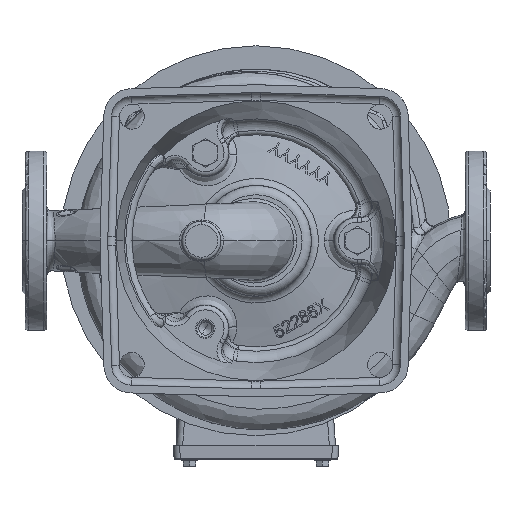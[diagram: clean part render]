
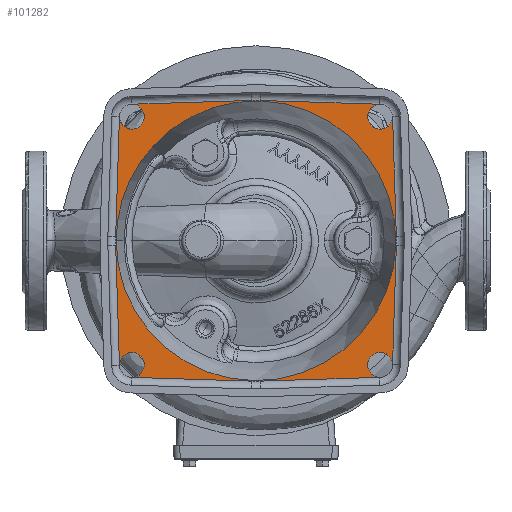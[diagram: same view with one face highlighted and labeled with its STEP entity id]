
A CAD part, front view. The second image highlights one B-rep face of the part: STEP entity #101282.
In plain terms, the highlighted planar face has unit normal (0, -1, 0).
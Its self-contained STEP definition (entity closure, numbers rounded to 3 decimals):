
#16184=CARTESIAN_POINT('',(0.,-34.,0.));
#16185=DIRECTION('',(0.,1.,0.));
#16186=DIRECTION('',(-0.737,0.,0.676));
#16187=AXIS2_PLACEMENT_3D('',#16184,#16185,#16186);
#17542=CARTESIAN_POINT('',(79.55,-34.,-79.55));
#17543=DIRECTION('',(0.,-1.,0.));
#17544=DIRECTION('',(0.998,0.,0.063));
#17545=AXIS2_PLACEMENT_3D('',#17542,#17543,#17544);
#17547=CARTESIAN_POINT('',(79.55,-34.,-79.55));
#17548=DIRECTION('',(0.,-1.,0.));
#17549=DIRECTION('',(0.,0.,1.));
#17550=AXIS2_PLACEMENT_3D('',#17547,#17548,#17549);
#17552=DIRECTION('',(-0.999,0.,-0.032));
#17553=VECTOR('',#17552,76.227);
#17554=CARTESIAN_POINT('',(79.047,-34.,-87.534));
#17555=LINE('',#17554,#17553);
#17556=CARTESIAN_POINT('',(0.,-34.,0.));
#17557=DIRECTION('',(0.,1.,0.));
#17558=DIRECTION('',(0.032,0.,-0.999));
#17559=AXIS2_PLACEMENT_3D('',#17556,#17557,#17558);
#17561=DIRECTION('',(-1.,0.,0.031));
#17562=VECTOR('',#17561,77.021);
#17563=CARTESIAN_POINT('',(-2.816,-34.,-89.956));
#17564=LINE('',#17563,#17562);
#17565=CARTESIAN_POINT('',(-79.55,-34.,-79.55));
#17566=DIRECTION('',(0.,-1.,0.));
#17567=DIRECTION('',(-0.031,0.,-1.));
#17568=AXIS2_PLACEMENT_3D('',#17565,#17566,#17567);
#17570=CARTESIAN_POINT('',(-79.55,-34.,-79.55));
#17571=DIRECTION('',(0.,-1.,0.));
#17572=DIRECTION('',(1.,0.,0.));
#17573=AXIS2_PLACEMENT_3D('',#17570,#17571,#17572);
#17575=DIRECTION('',(-0.031,0.,1.));
#17576=VECTOR('',#17575,76.771);
#17577=CARTESIAN_POINT('',(-87.55,-34.,
-79.55));
#17578=LINE('',#17577,#17576);
#17579=CARTESIAN_POINT('',(0.,-34.,0.));
#17580=DIRECTION('',(0.,1.,0.));
#17581=DIRECTION('',(-1.,0.,-0.031));
#17582=AXIS2_PLACEMENT_3D('',#17579,#17580,#17581);
#17584=DIRECTION('',(0.031,0.,1.));
#17585=VECTOR('',#17584,77.021);
#17586=CARTESIAN_POINT('',(-89.956,-34.,2.816));
#17587=LINE('',#17586,#17585);
#17588=CARTESIAN_POINT('',(-79.55,-34.,79.55));
#17589=DIRECTION('',(0.,-1.,0.));
#17590=DIRECTION('',(-1.,0.,0.031));
#17591=AXIS2_PLACEMENT_3D('',#17588,#17589,#17590);
#17593=CARTESIAN_POINT('',(-79.55,-34.,79.55));
#17594=DIRECTION('',(0.,-1.,0.));
#17595=DIRECTION('',(0.,0.,-1.));
#17596=AXIS2_PLACEMENT_3D('',#17593,#17594,#17595);
#17598=DIRECTION('',(1.,0.,0.031));
#17599=VECTOR('',#17598,76.771);
#17600=CARTESIAN_POINT('',(-79.55,-34.,
87.55));
#17601=LINE('',#17600,#17599);
#17602=CARTESIAN_POINT('',(0.,-34.,0.));
#17603=DIRECTION('',(0.,1.,0.));
#17604=DIRECTION('',(-0.031,0.,1.));
#17605=AXIS2_PLACEMENT_3D('',#17602,#17603,#17604);
#17607=DIRECTION('',(0.999,0.,-0.032));
#17608=VECTOR('',#17607,76.227);
#17609=CARTESIAN_POINT('',(2.858,-34.,89.955));
#17610=LINE('',#17609,#17608);
#17611=CARTESIAN_POINT('',(79.55,-34.,79.55));
#17612=DIRECTION('',(0.,-1.,0.));
#17613=DIRECTION('',(-0.063,0.,0.998));
#17614=AXIS2_PLACEMENT_3D('',#17611,#17612,#17613);
#17616=CARTESIAN_POINT('',(79.55,-34.,79.55));
#17617=DIRECTION('',(0.,-1.,0.));
#17618=DIRECTION('',(-1.,0.,0.));
#17619=AXIS2_PLACEMENT_3D('',#17616,#17617,#17618);
#17621=DIRECTION('',(0.031,0.,-1.));
#17622=VECTOR('',#17621,76.771);
#17623=CARTESIAN_POINT('',(87.55,-34.,
79.55));
#17624=LINE('',#17623,#17622);
#17625=CARTESIAN_POINT('',(0.,-34.,0.));
#17626=DIRECTION('',(0.,1.,0.));
#17627=DIRECTION('',(1.,0.,0.031));
#17628=AXIS2_PLACEMENT_3D('',#17625,#17626,#17627);
#17630=DIRECTION('',(-0.032,0.,-0.999));
#17631=VECTOR('',#17630,76.227);
#17632=CARTESIAN_POINT('',(89.955,-34.,-2.858));
#17633=LINE('',#17632,#17631);
#17634=CARTESIAN_POINT('',(0.,-34.,0.));
#17635=DIRECTION('',(0.,-1.,0.));
#17636=DIRECTION('',(-0.737,0.,0.676));
#17637=AXIS2_PLACEMENT_3D('',#17634,#17635,#17636);
#18430=CARTESIAN_POINT('',(87.55,-34.,
79.55));
#18482=CARTESIAN_POINT('',(-79.55,-34.,
87.55));
#18522=CARTESIAN_POINT('',(-87.55,-34.,
-79.55));
#67493=CARTESIAN_POINT('',(-66.112,-34.,60.58));
#67494=CARTESIAN_POINT('',(-89.67,-34.,0.));
#67495=VERTEX_POINT('',#67493);
#67496=VERTEX_POINT('',#67494);
#67658=CARTESIAN_POINT('',(89.956,-34.,2.816));
#67659=CARTESIAN_POINT('',(89.955,-34.,-2.858));
#67660=VERTEX_POINT('',#67658);
#67661=VERTEX_POINT('',#67659);
#67670=CARTESIAN_POINT('',(-2.816,-34.,89.956));
#67671=CARTESIAN_POINT('',(2.858,-34.,89.955));
#67672=VERTEX_POINT('',#67670);
#67673=VERTEX_POINT('',#67671);
#67682=CARTESIAN_POINT('',(-89.956,-34.,-2.816));
#67683=CARTESIAN_POINT('',(-89.956,-34.,2.816));
#67684=VERTEX_POINT('',#67682);
#67685=VERTEX_POINT('',#67683);
#67694=CARTESIAN_POINT('',(2.858,-34.,-89.955));
#67695=CARTESIAN_POINT('',(-2.816,-34.,-89.956));
#67696=VERTEX_POINT('',#67694);
#67697=VERTEX_POINT('',#67695);
#68264=VERTEX_POINT('',#18430);
#68266=CARTESIAN_POINT('',(79.047,-34.,87.534));
#68267=VERTEX_POINT('',#68266);
#68268=CARTESIAN_POINT('',(71.55,-34.,79.55));
#68269=VERTEX_POINT('',#68268);
#68274=VERTEX_POINT('',#18482);
#68276=CARTESIAN_POINT('',(-87.546,-34.,79.8));
#68277=VERTEX_POINT('',#68276);
#68278=CARTESIAN_POINT('',(-79.55,-34.,71.55));
#68279=VERTEX_POINT('',#68278);
#68284=VERTEX_POINT('',#18522);
#68286=CARTESIAN_POINT('',(-79.8,-34.,-87.546));
#68287=VERTEX_POINT('',#68286);
#68288=CARTESIAN_POINT('',(-71.55,-34.,-79.55));
#68289=VERTEX_POINT('',#68288);
#68295=CARTESIAN_POINT('',(87.534,-34.,-79.047));
#68297=VERTEX_POINT('',#68295);
#68298=CARTESIAN_POINT('',(79.55,-34.,-71.55));
#68299=VERTEX_POINT('',#68298);
#68300=CARTESIAN_POINT('',(79.047,-34.,-87.534));
#68301=VERTEX_POINT('',#68300);
#101231=CARTESIAN_POINT('',(0.,-34.,0.));
#101232=DIRECTION('',(0.,-1.,0.));
#101233=DIRECTION('',(-1.,0.,0.));
#101234=AXIS2_PLACEMENT_3D('',#101231,#101232,#101233);
#101235=PLANE('',#101234);
#101237=ORIENTED_EDGE('',*,*,#101236,.T.);
#101239=ORIENTED_EDGE('',*,*,#101238,.T.);
#101241=ORIENTED_EDGE('',*,*,#101240,.T.);
#101243=ORIENTED_EDGE('',*,*,#101242,.T.);
#101245=ORIENTED_EDGE('',*,*,#101244,.T.);
#101247=ORIENTED_EDGE('',*,*,#101246,.T.);
#101249=ORIENTED_EDGE('',*,*,#101248,.T.);
#101251=ORIENTED_EDGE('',*,*,#101250,.T.);
#101253=ORIENTED_EDGE('',*,*,#101252,.T.);
#101255=ORIENTED_EDGE('',*,*,#101254,.T.);
#101257=ORIENTED_EDGE('',*,*,#101256,.T.);
#101259=ORIENTED_EDGE('',*,*,#101258,.T.);
#101261=ORIENTED_EDGE('',*,*,#101260,.T.);
#101263=ORIENTED_EDGE('',*,*,#101262,.T.);
#101265=ORIENTED_EDGE('',*,*,#101264,.T.);
#101267=ORIENTED_EDGE('',*,*,#101266,.T.);
#101269=ORIENTED_EDGE('',*,*,#101268,.T.);
#101271=ORIENTED_EDGE('',*,*,#101270,.T.);
#101273=ORIENTED_EDGE('',*,*,#101272,.T.);
#101275=ORIENTED_EDGE('',*,*,#101274,.T.);
#101276=EDGE_LOOP('',(#101237,#101239,#101241,#101243,#101245,#101247,#101249,
#101251,#101253,#101255,#101257,#101259,#101261,#101263,#101265,#101267,#101269,
#101271,#101273,#101275));
#101277=FACE_OUTER_BOUND('',#101276,.F.);
#101278=ORIENTED_EDGE('',*,*,#98580,.F.);
#101279=ORIENTED_EDGE('',*,*,#101225,.T.);
#101280=EDGE_LOOP('',(#101278,#101279));
#101281=FACE_BOUND('',#101280,.F.);
#101282=ADVANCED_FACE('',(#101277,#101281),#101235,.T.);
#16188=CIRCLE('',#16187,89.67);
#17546=CIRCLE('',#17545,8.);
#17551=CIRCLE('',#17550,8.);
#17560=CIRCLE('',#17559,90.);
#17569=CIRCLE('',#17568,8.);
#17574=CIRCLE('',#17573,8.);
#17583=CIRCLE('',#17582,90.);
#17592=CIRCLE('',#17591,8.);
#17597=CIRCLE('',#17596,8.);
#17606=CIRCLE('',#17605,90.);
#17615=CIRCLE('',#17614,8.);
#17620=CIRCLE('',#17619,8.);
#17629=CIRCLE('',#17628,90.);
#17638=CIRCLE('',#17637,89.67);
#98580=EDGE_CURVE('',#67495,#67496,#16188,.T.);
#101225=EDGE_CURVE('',#67495,#67496,#17638,.T.);
#101236=EDGE_CURVE('',#68297,#68299,#17546,.T.);
#101238=EDGE_CURVE('',#68299,#68301,#17551,.T.);
#101240=EDGE_CURVE('',#68301,#67696,#17555,.T.);
#101242=EDGE_CURVE('',#67696,#67697,#17560,.T.);
#101244=EDGE_CURVE('',#67697,#68287,#17564,.T.);
#101246=EDGE_CURVE('',#68287,#68289,#17569,.T.);
#101248=EDGE_CURVE('',#68289,#68284,#17574,.T.);
#101250=EDGE_CURVE('',#68284,#67684,#17578,.T.);
#101252=EDGE_CURVE('',#67684,#67685,#17583,.T.);
#101254=EDGE_CURVE('',#67685,#68277,#17587,.T.);
#101256=EDGE_CURVE('',#68277,#68279,#17592,.T.);
#101258=EDGE_CURVE('',#68279,#68274,#17597,.T.);
#101260=EDGE_CURVE('',#68274,#67672,#17601,.T.);
#101262=EDGE_CURVE('',#67672,#67673,#17606,.T.);
#101264=EDGE_CURVE('',#67673,#68267,#17610,.T.);
#101266=EDGE_CURVE('',#68267,#68269,#17615,.T.);
#101268=EDGE_CURVE('',#68269,#68264,#17620,.T.);
#101270=EDGE_CURVE('',#68264,#67660,#17624,.T.);
#101272=EDGE_CURVE('',#67660,#67661,#17629,.T.);
#101274=EDGE_CURVE('',#67661,#68297,#17633,.T.);
